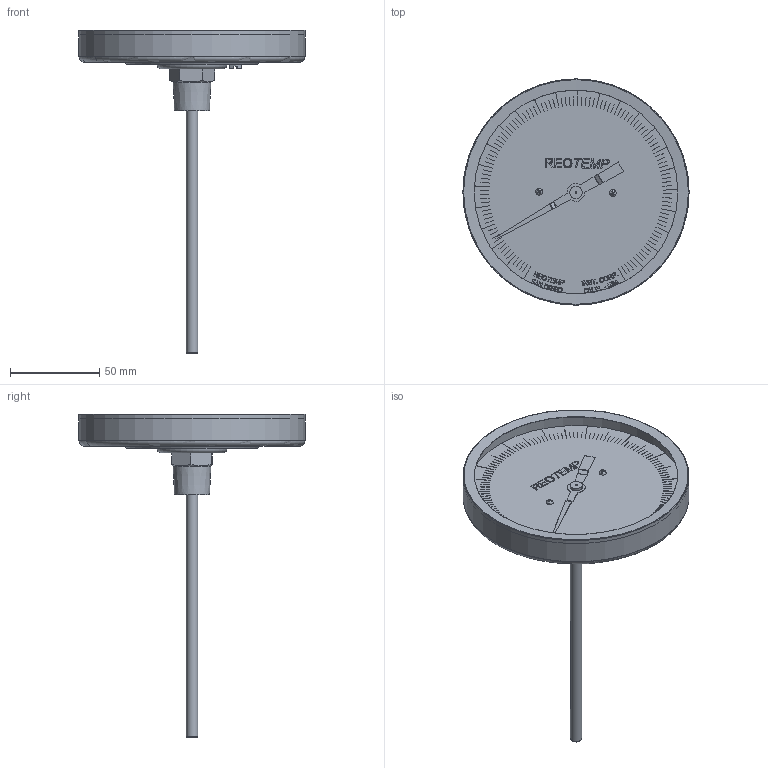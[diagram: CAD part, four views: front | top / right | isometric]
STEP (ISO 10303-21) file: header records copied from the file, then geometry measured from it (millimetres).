
FILE_DESCRIPTION(/* description */ (''),/* implementation_level */ '2;1');
FILE_NAME(/* name */ 'P:\3D Drawings\BB\BB-half-NPT\BB-half-NPT-STP\BB-half-NPT-STP.stp',/* time_stamp */ '2015-11-09T11:08:00-08:00',/* author */ ('charles'),/* organization */ (''),/* preprocessor_version */ 'ST-DEVELOPER v15.2',/* originating_system */ 'Autodesk Inventor 2014',/* authorisation */ '');
FILE_SCHEMA (('AUTOMOTIVE_DESIGN { 1 0 10303 214 3 1 1 }'));
Length unit declared in the file: inch
Products named in the file (1): BB-half-NPT
Bounding box: 127 x 127 x 181.77 mm (x, y, z)
Volume: 92522.5 mm3; surface area: 70757.8 mm2
Topology: 16 solids, 16 shells, 1273 faces, 3273 edges, 2171 vertices
Faces by surface type: plane 1034, bspline 201, cylinder 25, torus 9, cone 4
Full cylindrical faces by diameter (mm): 0.778 x1, 1.067 x1, 2.286 x2, 3.175 x1, 6.071 x1, 6.35 x1, 6.934 x1, 6.985 x1, 74.93 x1, 114.348 x1, 121.158 x1, 124.931 x1, 126.683 x1, 127 x1
Entity records: 41092 total; most frequent: CARTESIAN_POINT 10228, ORIENTED_EDGE 6474, DIRECTION 5007, EDGE_CURVE 3237, LINE 2751, VECTOR 2751, VERTEX_POINT 2163, EDGE_LOOP 1526
